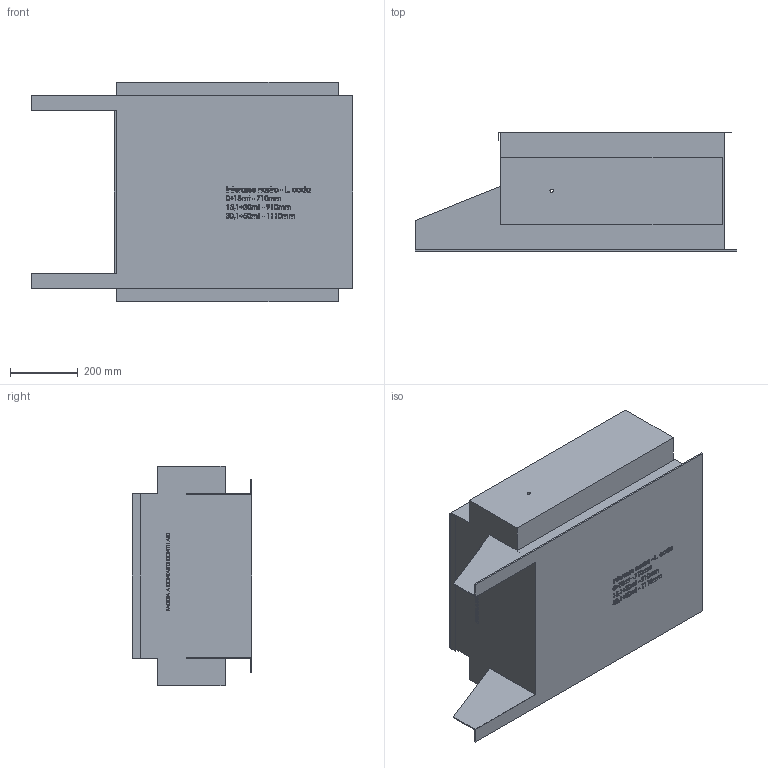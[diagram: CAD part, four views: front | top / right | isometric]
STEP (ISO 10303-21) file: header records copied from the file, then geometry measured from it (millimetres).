
FILE_DESCRIPTION (( 'STEP AP203' ), '1' );
FILE_NAME ('30751.step', '2019-03-14T14:31:28', ( 'PC' ), ( 'Hewlett-Packard Company' ), 'SwSTEP 2.0', 'SolidWorks 2016', '' );
FILE_SCHEMA (( 'CONFIG_CONTROL_DESIGN' ));
Length unit declared in the file: millimetre
Products named in the file (1): 30751
Bounding box: 950 x 353.5 x 650 mm (x, y, z)
Volume: 135533226.5 mm3; surface area: 2152397.7 mm2
Topology: 1 solids, 1 shells, 1110 faces, 2964 edges, 1976 vertices
Faces by surface type: plane 679, bspline 429, cylinder 2
Entity records: 57931 total; most frequent: CARTESIAN_POINT 33072, ORIENTED_EDGE 5928, DIRECTION 3474, EDGE_CURVE 2964, VECTOR 2102, LINE 2102, VERTEX_POINT 1976, EDGE_LOOP 1232
